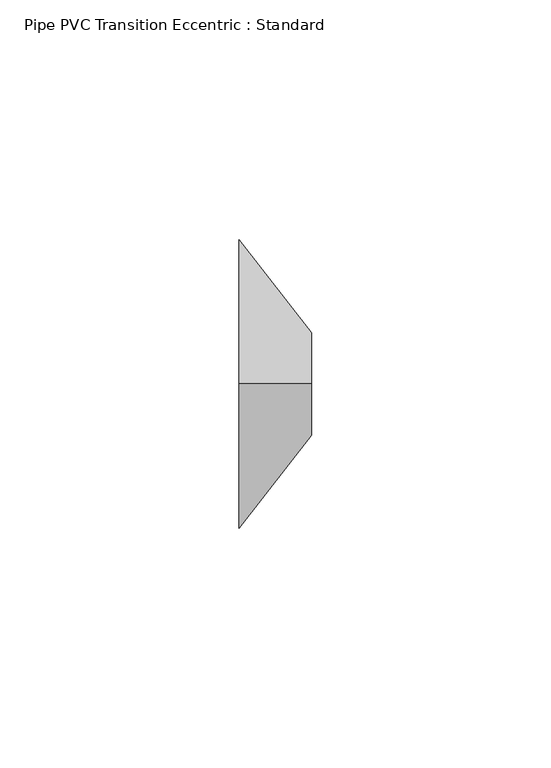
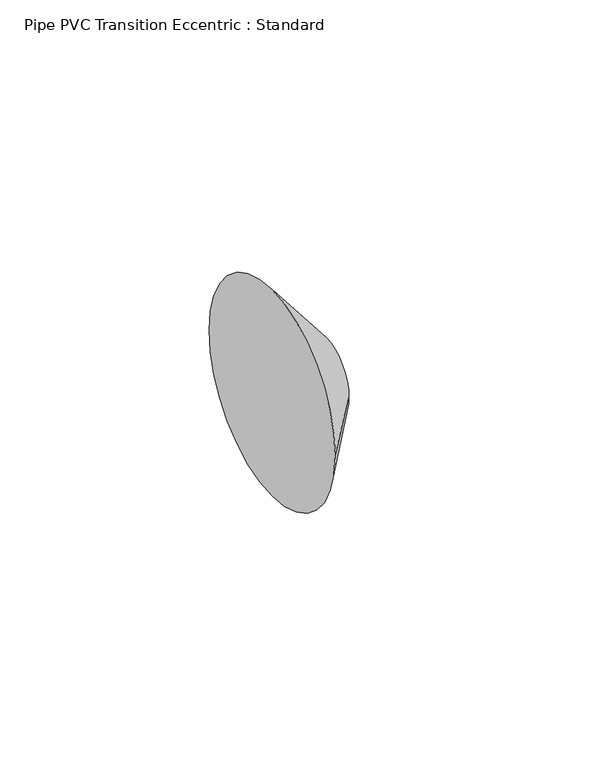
"""IFC4 building model written with IfcOpenShell, lengths in millimetres: pipe fitting geometry, Pipe PVC Transition Eccentric : Standard."""

from ifc_helpers import new_model, si_unit, frame, origin, place, context, project, spatial, polyline, circle_curve, source, transform, mapped, element, save
from ifc_brep_helpers import plane_surface, revolved_surface, advanced_brep


def pipe_pvc_transition_eccentric_standard_ac0fe892(model_context):
    return source(origin(), model_context, "Body", "AdvancedBrep", [
        advanced_brep(
        [(15.08125, 0.0, 10.668), (15.08125, -10.668, 0.0), (15.08125, 0.0, -10.668), (15.08125, 10.668, 0.0), (0.0, 0.0, 30.1625), (0.0, 30.1625, 0.0), (0.0, 0.0, -30.1625), (0.0, -30.1625, 0.0)],
        [
            (0, 1, circle_curve(frame((15.08125, 0.0, 0.0), z_axis=(1.0, 0.0, 0.0), x_axis=(0.0, 0.0, 1.0)), 10.668)),
            (1, 2, circle_curve(frame((15.08125, 0.0, 0.0), z_axis=(1.0, 0.0, 0.0), x_axis=(0.0, -1.0, 0.0)), 10.668)),
            (2, 3, circle_curve(frame((15.08125, 0.0, 0.0), z_axis=(1.0, 0.0, 0.0), x_axis=(0.0, 0.0, -1.0)), 10.668)),
            (3, 0, circle_curve(frame((15.08125, 0.0, 0.0), z_axis=(1.0, 0.0, 0.0), x_axis=(0.0, 1.0, 0.0)), 10.668)),
            (4, 5, circle_curve(frame((0.0, 0.0, 0.0), z_axis=(-1.0, 0.0, 0.0), x_axis=(0.0, 1.0, 0.0)), 30.1625)),
            (5, 6, circle_curve(frame((0.0, 0.0, 0.0), z_axis=(-1.0, 0.0, 0.0), x_axis=(0.0, 0.0, -1.0)), 30.1625)),
            (6, 7, circle_curve(frame((0.0, 0.0, 0.0), z_axis=(-1.0, 0.0, 0.0), x_axis=(0.0, -1.0, 0.0)), 30.1625)),
            (7, 4, circle_curve(frame((0.0, 0.0, 0.0), z_axis=(-1.0, 0.0, 0.0), x_axis=(0.0, 0.0, 1.0)), 30.1625)),
            (7, 1),
            (0, 4),
            (6, 2),
            (5, 3),
        ],
        [
            plane_surface(frame((15.08125, 0.0, 0.0), z_axis=(1.0, 0.0, 0.0), x_axis=(0.0, -1.0, 0.0))),
            plane_surface(frame((0.0, 0.0, 0.0), z_axis=(-1.0, 0.0, 0.0), x_axis=(0.0, -1.0, 0.0))),
            revolved_surface(polyline([(15.08125, 0.0, 10.668000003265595), (0.0, 0.0, 30.1625)]), (23.3341816, 0.0, 0.0), (-1.0, 0.0, 0.0)),
            revolved_surface(polyline([(15.08125, -10.668000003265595, 0.0), (0.0, -30.1625, 0.0)]), (23.3341816, 0.0, 0.0), (-1.0, 0.0, 0.0)),
            revolved_surface(polyline([(15.08125, 0.0, -10.668000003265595), (0.0, 0.0, -30.1625)]), (23.3341816, 0.0, 0.0), (-1.0, 0.0, 0.0)),
            revolved_surface(polyline([(15.08125, 10.668000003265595, 0.0), (0.0, 30.1625, 0.0)]), (23.3341816, 0.0, 0.0), (-1.0, 0.0, 0.0)),
        ],
        [
            (0, [[1, 2, 3, 4]]),
            (1, [[5, 6, 7, 8]]),
            (2, [[-8, 9, -1, 10]]),
            (3, [[-7, 11, -2, -9]]),
            (4, [[-6, 12, -3, -11]]),
            (5, [[-5, -10, -4, -12]]),
        ],
    ),
        advanced_brep(
        [(15.08125, 0.0, 10.668), (15.08125, -10.668, 0.0), (15.08125, 0.0, -10.668), (15.08125, 10.668, 0.0), (0.0, 0.0, 30.1625), (0.0, 30.1625, 0.0), (0.0, 0.0, -30.1625), (0.0, -30.1625, 0.0)],
        [
            (0, 1, circle_curve(frame((15.08125, 0.0, 0.0), z_axis=(1.0, 0.0, 0.0), x_axis=(0.0, 0.0, 1.0)), 10.668)),
            (1, 2, circle_curve(frame((15.08125, 0.0, 0.0), z_axis=(1.0, 0.0, 0.0), x_axis=(0.0, -1.0, 0.0)), 10.668)),
            (2, 3, circle_curve(frame((15.08125, 0.0, 0.0), z_axis=(1.0, 0.0, 0.0), x_axis=(0.0, 0.0, -1.0)), 10.668)),
            (3, 0, circle_curve(frame((15.08125, 0.0, 0.0), z_axis=(1.0, 0.0, 0.0), x_axis=(0.0, 1.0, 0.0)), 10.668)),
            (4, 5, circle_curve(frame((0.0, 0.0, 0.0), z_axis=(-1.0, 0.0, 0.0), x_axis=(0.0, 1.0, 0.0)), 30.1625)),
            (5, 6, circle_curve(frame((0.0, 0.0, 0.0), z_axis=(-1.0, 0.0, 0.0), x_axis=(0.0, 0.0, -1.0)), 30.1625)),
            (6, 7, circle_curve(frame((0.0, 0.0, 0.0), z_axis=(-1.0, 0.0, 0.0), x_axis=(0.0, -1.0, 0.0)), 30.1625)),
            (7, 4, circle_curve(frame((0.0, 0.0, 0.0), z_axis=(-1.0, 0.0, 0.0), x_axis=(0.0, 0.0, 1.0)), 30.1625)),
            (7, 1),
            (0, 4),
            (6, 2),
            (5, 3),
        ],
        [
            plane_surface(frame((15.08125, 0.0, 0.0), z_axis=(1.0, 0.0, 0.0), x_axis=(0.0, -1.0, 0.0))),
            plane_surface(frame((0.0, 0.0, 0.0), z_axis=(-1.0, 0.0, 0.0), x_axis=(0.0, -1.0, 0.0))),
            revolved_surface(polyline([(15.08125, 0.0, 10.668000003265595), (0.0, 0.0, 30.1625)]), (23.3341816, 0.0, 0.0), (-1.0, 0.0, 0.0)),
            revolved_surface(polyline([(15.08125, -10.668000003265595, 0.0), (0.0, -30.1625, 0.0)]), (23.3341816, 0.0, 0.0), (-1.0, 0.0, 0.0)),
            revolved_surface(polyline([(15.08125, 0.0, -10.668000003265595), (0.0, 0.0, -30.1625)]), (23.3341816, 0.0, 0.0), (-1.0, 0.0, 0.0)),
            revolved_surface(polyline([(15.08125, 10.668000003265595, 0.0), (0.0, 30.1625, 0.0)]), (23.3341816, 0.0, 0.0), (-1.0, 0.0, 0.0)),
        ],
        [
            (0, [[1, 2, 3, 4]]),
            (1, [[5, 6, 7, 8]]),
            (2, [[-8, 9, -1, 10]]),
            (3, [[-7, 11, -2, -9]]),
            (4, [[-6, 12, -3, -11]]),
            (5, [[-5, -10, -4, -12]]),
        ],
    ),
    ])


if __name__ == "__main__":
    model = new_model("IFC4")
    model_context = context("Model", 3, world=origin())
    ifc_project = project(units=[si_unit("LENGTHUNIT", "METRE", prefix="MILLI")], contexts=[model_context])
    site = spatial("IfcSite", under=ifc_project)
    building = spatial("IfcBuilding", under=site)
    placement = place(None, origin())
    pipe_pvc_transition_eccentric_standard_shape = pipe_pvc_transition_eccentric_standard_ac0fe892(model_context)
    element("IfcPipeFitting", 1, ObjectType="Pipe PVC Transition Eccentric : Standard", at=placement, inside=building, context=model_context, shape_type="MappedRepresentation", body=[
        mapped(pipe_pvc_transition_eccentric_standard_shape, transform((0.0, 0.0, 0.0), x_axis=(1.0, 0.0, 0.0), y_axis=(0.0, 1.0, 0.0), z_axis=(0.0, 0.0, 1.0))),
    ])
    save(model, "model.ifc")
